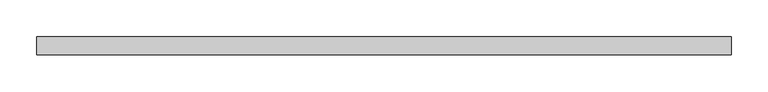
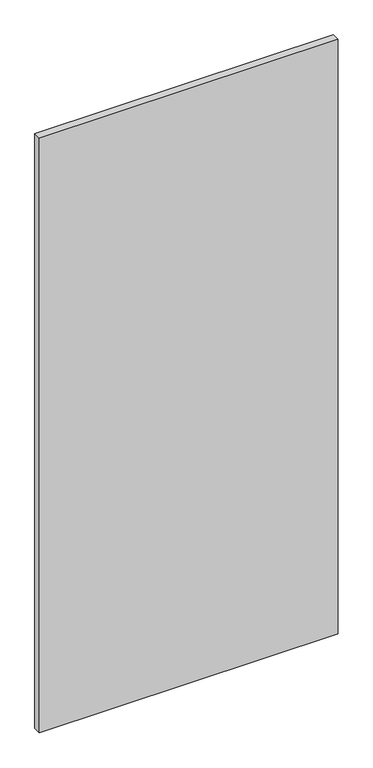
"""IFC4 building model written with IfcOpenShell, lengths in millimetres: plate geometry, Системная панель : С остеклением."""

from ifc_helpers import new_model, si_unit, origin, origin_with_axes, place, context, project, spatial, polyline, outline, extrude, source, transform, mapped, element, save


def plate_c353b8a3(model_context):
    return source(origin(), model_context, "Body", "SweptSolid", [
        extrude(outline(polyline([(475.0, -49.5), (-475.0, -49.5), (-475.0, -24.5), (475.0, -24.5), (475.0, -49.5)])), origin_with_axes(), (0.0, 0.0, 1.0), 2000.0),
    ])


if __name__ == "__main__":
    model = new_model("IFC4")
    model_context = context("Model", 3, world=origin())
    ifc_project = project(units=[si_unit("LENGTHUNIT", "METRE", prefix="MILLI")], contexts=[model_context])
    site = spatial("IfcSite", under=ifc_project)
    building = spatial("IfcBuilding", under=site)
    placement = place(None, origin())
    plate_shape = plate_c353b8a3(model_context)
    element("IfcPlate", 1, ObjectType="Системная панель : С остеклением", at=placement, inside=building, context=model_context, shape_type="MappedRepresentation", body=[
        mapped(plate_shape, transform((0.0, 0.0, 0.0), x_axis=(1.0, 0.0, 0.0), y_axis=(0.0, 1.0, 0.0), z_axis=(0.0, 0.0, 1.0))),
    ])
    save(model, "model.ifc")
